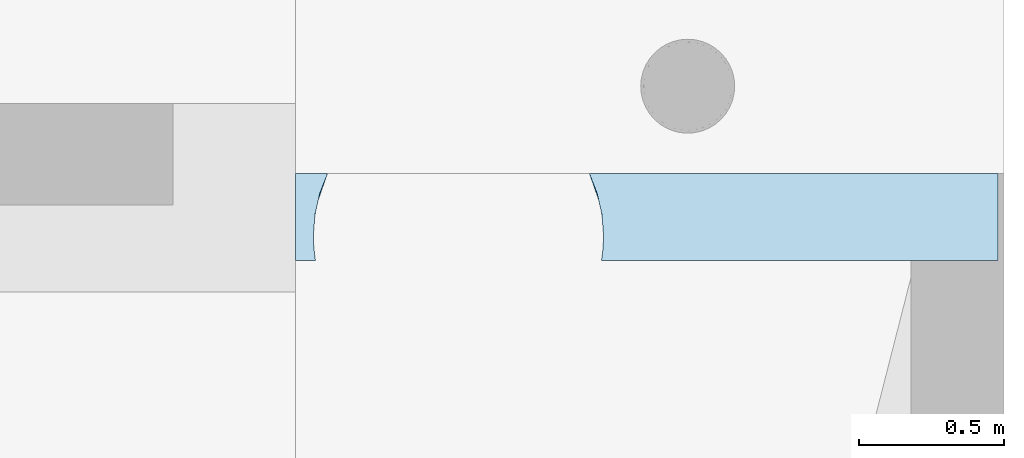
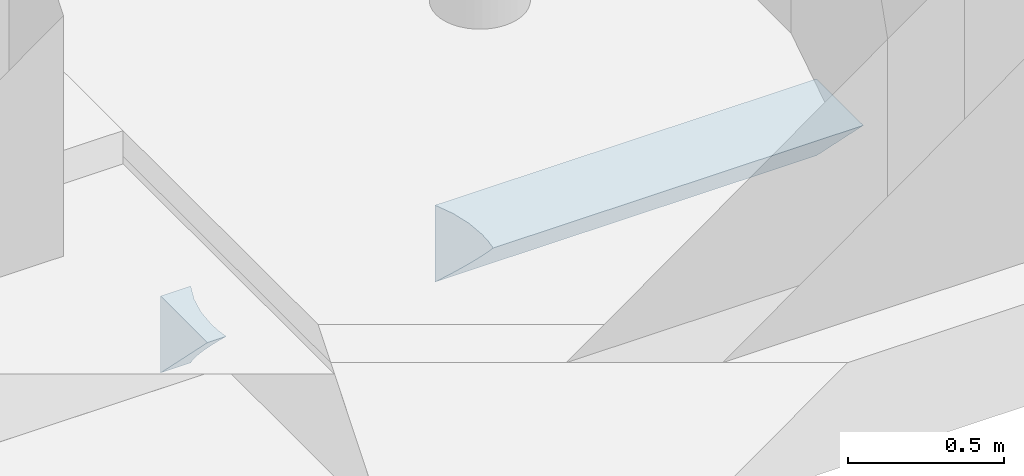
# One storey, part 38 of 42: 1 footing.
"""IFC2X3 building model written with IfcOpenShell, lengths in millimetres."""

from ifc_helpers import new_model, entity, si_unit, converted_unit, derived_unit, direction, frame, origin, place, context, subcontext, project, spatial, faceted_brep, source, transform, mapped, material, type_object, type_shapes, element, save


model = new_model("IFC2X3")

# Units and contexts
model_context = context("Model", 3, precision=0.01, world=origin(), true_north=direction((6.12303176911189e-17, 1.0)))
body_context = subcontext(model_context, "Body", "Model", "MODEL_VIEW")
ifc_project = project(units=[si_unit("LENGTHUNIT", "METRE", prefix="MILLI"), si_unit("AREAUNIT", "SQUARE_METRE", prefix="MILLI"), si_unit("VOLUMEUNIT", "CUBIC_METRE"), converted_unit("PLANEANGLEUNIT", "DEGREE", entity("IfcRatioMeasure", 0.0174532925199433), si_unit("PLANEANGLEUNIT", "RADIAN"), dimensions=[0, 0, 0, 0, 0, 0, 0]), si_unit("MASSUNIT", "GRAM", prefix="KILO"), derived_unit("MASSDENSITYUNIT", [(si_unit("MASSUNIT", "GRAM", prefix="KILO"), 1), (si_unit("LENGTHUNIT", "METRE"), -3)]), derived_unit("MOMENTOFINERTIAUNIT", [(si_unit("LENGTHUNIT", "METRE"), 4)]), si_unit("TIMEUNIT", "SECOND"), si_unit("FREQUENCYUNIT", "HERTZ"), si_unit("THERMODYNAMICTEMPERATUREUNIT", "DEGREE_CELSIUS"), derived_unit("THERMALTRANSMITTANCEUNIT", [(si_unit("MASSUNIT", "GRAM", prefix="KILO"), 1), (si_unit("THERMODYNAMICTEMPERATUREUNIT", "KELVIN"), -1), (si_unit("TIMEUNIT", "SECOND"), -3)]), derived_unit("VOLUMETRICFLOWRATEUNIT", [(si_unit("LENGTHUNIT", "METRE"), 3), (si_unit("TIMEUNIT", "SECOND"), -1)]), si_unit("ELECTRICCURRENTUNIT", "AMPERE"), si_unit("ELECTRICVOLTAGEUNIT", "VOLT"), si_unit("POWERUNIT", "WATT"), si_unit("FORCEUNIT", "NEWTON", prefix="KILO"), si_unit("ILLUMINANCEUNIT", "LUX"), si_unit("LUMINOUSFLUXUNIT", "LUMEN"), si_unit("LUMINOUSINTENSITYUNIT", "CANDELA"), derived_unit("USERDEFINED", [(si_unit("MASSUNIT", "GRAM", prefix="KILO"), -1), (si_unit("LENGTHUNIT", "METRE"), -2), (si_unit("TIMEUNIT", "SECOND"), 3), (si_unit("LUMINOUSFLUXUNIT", "LUMEN"), 1)]), derived_unit("LINEARVELOCITYUNIT", [(si_unit("LENGTHUNIT", "METRE"), 1), (si_unit("TIMEUNIT", "SECOND"), -1)]), si_unit("PRESSUREUNIT", "PASCAL"), derived_unit("USERDEFINED", [(si_unit("LENGTHUNIT", "METRE"), -2), (si_unit("MASSUNIT", "GRAM", prefix="KILO"), 1), (si_unit("TIMEUNIT", "SECOND"), -2)]), derived_unit("LINEARFORCEUNIT", [(si_unit("MASSUNIT", "GRAM", prefix="KILO"), 1), (si_unit("LENGTHUNIT", "METRE"), 1), (si_unit("TIMEUNIT", "SECOND"), -2), (si_unit("LENGTHUNIT", "METRE"), -1)]), derived_unit("PLANARFORCEUNIT", [(si_unit("MASSUNIT", "GRAM", prefix="KILO"), 1), (si_unit("LENGTHUNIT", "METRE"), 1), (si_unit("TIMEUNIT", "SECOND"), -2), (si_unit("LENGTHUNIT", "METRE"), -2)])], contexts=[model_context])

# Site, building, storey
site_placement = place(None, origin())
site = spatial("IfcSite", under=ifc_project, at=site_placement, Name="Theater aan de Parade", CompositionType="ELEMENT")
building_placement = place(site_placement, origin())
building = spatial("IfcBuilding", under=site, at=building_placement, Name="Theater aan de Parade", CompositionType="ELEMENT")
storey_placement = place(building_placement, frame((0.0, 0.0, -3300.0)))
storey = spatial("IfcBuildingStorey", under=building, at=storey_placement, Name="-1 kelder", CompositionType="ELEMENT", Elevation=-3300.0)

# Footing
ifc_material = material(Name="00_PBT_MAT_beton t.p.g.")
type_product = type_object("IfcTypeProduct", Name="16_PBT_SF_funderingsbalk_driehoek:300x300_bestaand", material=ifc_material)
shared_shape = source(origin(), body_context, "Body", "Brep", [
    faceted_brep([(2422.14103043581, 301.595272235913, 301.595272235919), (2422.14103043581, 1.59527223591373, 301.595272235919), (2422.14103043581, 301.595272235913, 1.59527223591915), (1040.12708861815, 232.300048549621, 301.595272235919), (1056.6069185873, 159.756771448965, 301.595272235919), (1062.14103043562, 85.5712913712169, 301.595272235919), (1060.36226239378, 43.4333746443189, 301.595272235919), (1057.82280559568, 23.4759972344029, 301.595272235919), (1055.03861433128, 1.59527223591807, 301.595272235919), (1013.06634541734, 301.595272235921, 301.595272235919), (1060.36226239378, 43.4333746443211, 259.757169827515), (1062.14103043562, 85.5712913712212, 217.619253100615), (1059.02557380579, 141.300552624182, 161.889991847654), (1049.71802819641, 196.335325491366, 106.85521898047), (1034.33438262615, 249.98977618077, 53.2007682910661), (1013.06634541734, 301.595272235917, 1.59527223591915), (1057.1113958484, 17.8850878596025, 285.30545661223), (1013.06634541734, 301.595272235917, 196.787483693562)], [[[0, 1, 2]], [[3, 4, 5, 6, 7, 8, 1, 0, 9]], [[10, 11, 12, 13, 14, 15, 2, 1, 8, 16]], [[0, 2, 15, 17, 9]], [[7, 6, 10, 16, 8]], [[5, 11, 10, 6]], [[4, 12, 11]], [[11, 5, 4]], [[4, 13, 12]], [[17, 15, 14]], [[3, 9, 17]], [[14, 13, 17]], [[13, 3, 17]], [[4, 3, 13]]]),
    faceted_brep([(63.9197984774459, 43.4333746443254, 259.757169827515), (62.1410304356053, 85.5712913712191, 217.61925310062), (62.1410304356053, 85.5712913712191, 301.595272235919), (63.9197984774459, 43.4333746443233, 301.595272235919), (69.2434465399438, 1.5952722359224, 301.595272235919), (0.0, 301.595272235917, 271.595272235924), (0.0, 301.595272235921, 1.59527223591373), (0.0, 31.5952722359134, 271.595272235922), (0.0, 1.59527223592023, 301.595272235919), (0.0, 301.595272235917, 301.595272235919), (67.675142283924, 159.756771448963, 301.595272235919), (84.154972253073, 232.300048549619, 301.595272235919), (111.215715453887, 301.595272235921, 301.595272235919), (111.215715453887, 301.595272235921, 1.59527223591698), (89.9476782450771, 249.989776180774, 53.200768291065), (74.5640326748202, 196.335325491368, 106.85521898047), (65.256487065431, 141.300552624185, 161.889991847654), (111.215715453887, 301.595272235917, 196.7874944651)], [[[0, 1, 2, 3]], [[4, 0, 3]], [[5, 6, 7, 8, 9]], [[9, 8, 4, 3, 2, 10, 11, 12]], [[7, 6, 13, 14, 15, 16, 1, 0, 4, 8]], [[5, 9, 12, 17, 13, 6]], [[17, 14, 13]], [[11, 17, 12]], [[17, 11, 15]], [[10, 16, 15]], [[2, 1, 10]], [[16, 10, 1]], [[15, 14, 17]], [[11, 10, 15]]]),
])
type_shapes(type_product, [shared_shape])
footing_placement = place(storey_placement, frame((86237.8589695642, 19268.4047277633, -41.5952722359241)))
element("IfcFooting", 1, at=footing_placement, inside=storey, type_object=type_product, material=ifc_material, Name="16_PBT_SF_funderingsbalk_driehoek:300x300_bestaand", ObjectType="16_PBT_SF_funderingsbalk_driehoek:300x300_bestaand", context=body_context, shape_type="MappedRepresentation", body=[
    mapped(shared_shape, transform((0.0, 0.0, 0.0), scale=1.0)),
])

save(model, "model.ifc")
